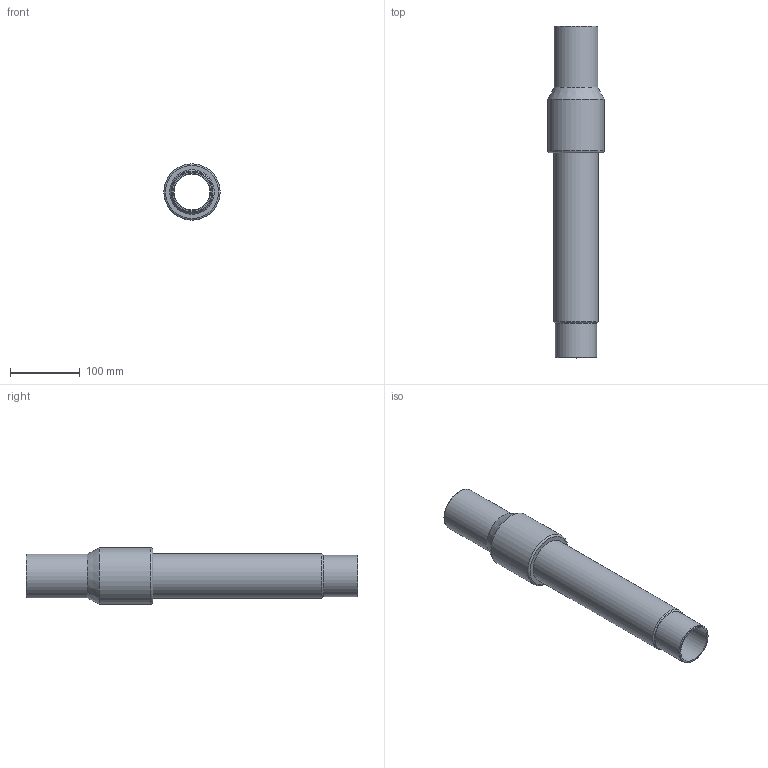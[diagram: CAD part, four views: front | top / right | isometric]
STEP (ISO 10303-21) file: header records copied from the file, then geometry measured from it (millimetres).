
FILE_DESCRIPTION(/* description */ ('Unknown'),/* implementation_level */ '2;1');
FILE_NAME(/* name */ 'RTSZRP063C',/* time_stamp */ '2022-04-27T09:59:49+02:00',/* author */ ('Unknown'),/* organization */ ('Unknown'),/* preprocessor_version */ 'ST-DEVELOPER v18.1',/* originating_system */ 'Solid Edge',/* authorisation */ 'Unknown');
FILE_SCHEMA (('AUTOMOTIVE_DESIGN {1 0 10303 214 3 1 1}'));
Length unit declared in the file: millimetre
Products named in the file (4): RTSZRP063C; Partea ACCIAIO; copertura tubo; Parte PE__oa_0
Assembly tree (3 placements, depth 2):
  RTSZRP063C
    Partea ACCIAIO
    copertura tubo
    Parte PE__oa_0
Bounding box: 81 x 477 x 81 mm (x, y, z)
Volume: 622306.7 mm3; surface area: 335576.9 mm2
Topology: 3 solids, 3 shells, 21 faces, 39 edges, 24 vertices
Faces by surface type: cylinder 9, plane 6, cone 4, torus 2
Full cylindrical faces by diameter (mm): 51.4 x1, 53.1 x1, 59.3 x1, 60.3 x2, 63 x1, 63.9 x2, 81 x1
Entity records: 531 total; most frequent: DIRECTION 92, CARTESIAN_POINT 67, AXIS2_PLACEMENT_3D 46, ORIENTED_EDGE 42, EDGE_LOOP 42, FACE_BOUND 42, EDGE_CURVE 21, VERTEX_POINT 21
